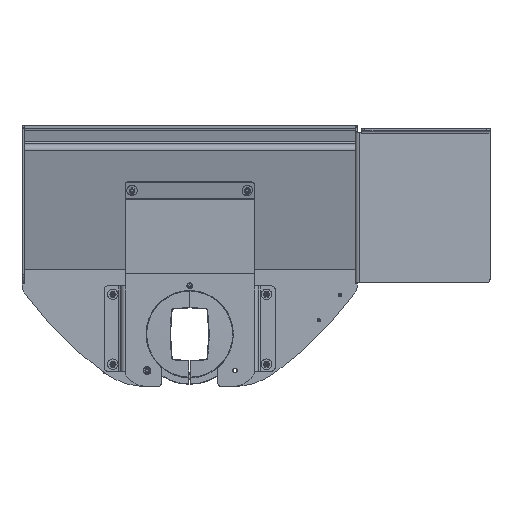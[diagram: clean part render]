
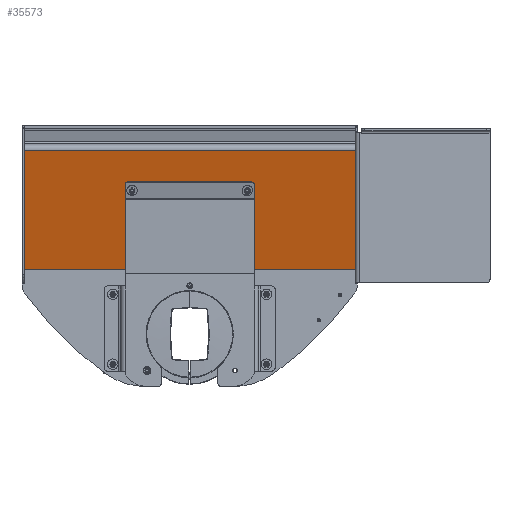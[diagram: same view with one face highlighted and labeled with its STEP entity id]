
A CAD part, front view. The second image highlights one B-rep face of the part: STEP entity #35573.
In plain terms, the highlighted planar face has unit normal (0, -0.966, -0.259) as drawn and (0, -0.259, 0.966) by its records, which use the part's own axes.
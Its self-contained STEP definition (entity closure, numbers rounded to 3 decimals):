
#33976=DIRECTION('',(-1.,0.,0.));
#33977=VECTOR('',#33976,474.);
#33978=CARTESIAN_POINT('',(237.,170.587,45.709));
#33979=LINE('',#33978,#33977);
#33983=DIRECTION('',(0.,-0.966,-0.259));
#33984=VECTOR('',#33983,176.21);
#33985=CARTESIAN_POINT('',(237.,170.587,45.709));
#33986=LINE('',#33985,#33984);
#33990=DIRECTION('',(1.,0.,0.));
#33991=VECTOR('',#33990,474.);
#33992=CARTESIAN_POINT('',(-237.,0.381,0.102));
#33993=LINE('',#33992,#33991);
#33997=DIRECTION('',(0.,-0.966,-0.259));
#33998=VECTOR('',#33997,176.21);
#33999=CARTESIAN_POINT('',(-237.,170.587,45.709));
#34000=LINE('',#33999,#33998);
#34004=CARTESIAN_POINT('',(82.5,114.177,30.594));
#34005=DIRECTION('',(0.,0.259,-0.966));
#34006=DIRECTION('',(0.,0.966,0.259));
#34007=AXIS2_PLACEMENT_3D('',#34004,#34005,#34006);
#34012=CARTESIAN_POINT('',(82.5,114.177,30.594));
#34013=DIRECTION('',(0.,0.259,-0.966));
#34014=DIRECTION('',(0.,-0.966,-0.259));
#34015=AXIS2_PLACEMENT_3D('',#34012,#34013,#34014);
#34020=CARTESIAN_POINT('',(-82.5,114.177,30.594));
#34021=DIRECTION('',(0.,0.259,-0.966));
#34022=DIRECTION('',(0.,0.966,0.259));
#34023=AXIS2_PLACEMENT_3D('',#34020,#34021,#34022);
#34028=CARTESIAN_POINT('',(-82.5,114.177,30.594));
#34029=DIRECTION('',(0.,0.259,-0.966));
#34030=DIRECTION('',(0.,-0.966,
-0.259));
#34031=AXIS2_PLACEMENT_3D('',#34028,#34029,#34030);
#34522=CARTESIAN_POINT('',(-237.,0.381,0.102));
#34523=CARTESIAN_POINT('',(237.,0.381,0.102));
#34524=VERTEX_POINT('',#34522);
#34525=VERTEX_POINT('',#34523);
#34598=CARTESIAN_POINT('',(237.,170.587,45.709));
#34599=CARTESIAN_POINT('',(-237.,170.587,45.709));
#34600=VERTEX_POINT('',#34598);
#34601=VERTEX_POINT('',#34599);
#34646=CARTESIAN_POINT('',(82.5,116.592,31.241));
#34647=CARTESIAN_POINT('',(82.5,111.762,29.947));
#34648=VERTEX_POINT('',#34646);
#34649=VERTEX_POINT('',#34647);
#34654=CARTESIAN_POINT('',(-82.5,116.592,31.241));
#34655=CARTESIAN_POINT('',(-82.5,111.762,29.947));
#34656=VERTEX_POINT('',#34654);
#34657=VERTEX_POINT('',#34655);
#35549=CARTESIAN_POINT('',(-240.,176.383,47.262));
#35550=DIRECTION('',(0.,-0.259,0.966));
#35551=DIRECTION('',(0.,-0.966,-0.259));
#35552=AXIS2_PLACEMENT_3D('',#35549,#35550,#35551);
#35553=PLANE('',#35552);
#35555=ORIENTED_EDGE('',*,*,#35554,.F.);
#35556=ORIENTED_EDGE('',*,*,#35128,.T.);
#35557=ORIENTED_EDGE('',*,*,#35534,.F.);
#35558=ORIENTED_EDGE('',*,*,#35082,.F.);
#35559=EDGE_LOOP('',(#35555,#35556,#35557,#35558));
#35560=FACE_OUTER_BOUND('',#35559,.F.);
#35562=ORIENTED_EDGE('',*,*,#35561,.F.);
#35564=ORIENTED_EDGE('',*,*,#35563,.F.);
#35565=EDGE_LOOP('',(#35562,#35564));
#35566=FACE_BOUND('',#35565,.F.);
#35568=ORIENTED_EDGE('',*,*,#35567,.F.);
#35570=ORIENTED_EDGE('',*,*,#35569,.F.);
#35571=EDGE_LOOP('',(#35568,#35570));
#35572=FACE_BOUND('',#35571,.F.);
#34008=CIRCLE('',#34007,2.5);
#34016=CIRCLE('',#34015,2.5);
#34024=CIRCLE('',#34023,2.5);
#34032=CIRCLE('',#34031,2.5);
#35082=EDGE_CURVE('',#34601,#34524,#34000,.T.);
#35128=EDGE_CURVE('',#34600,#34525,#33986,.T.);
#35534=EDGE_CURVE('',#34524,#34525,#33993,.T.);
#35554=EDGE_CURVE('',#34600,#34601,#33979,.T.);
#35561=EDGE_CURVE('',#34648,#34649,#34008,.T.);
#35563=EDGE_CURVE('',#34649,#34648,#34016,.T.);
#35567=EDGE_CURVE('',#34656,#34657,#34024,.T.);
#35569=EDGE_CURVE('',#34657,#34656,#34032,.T.);
#35573=ADVANCED_FACE('',(#35560,#35566,#35572),#35553,.T.);
